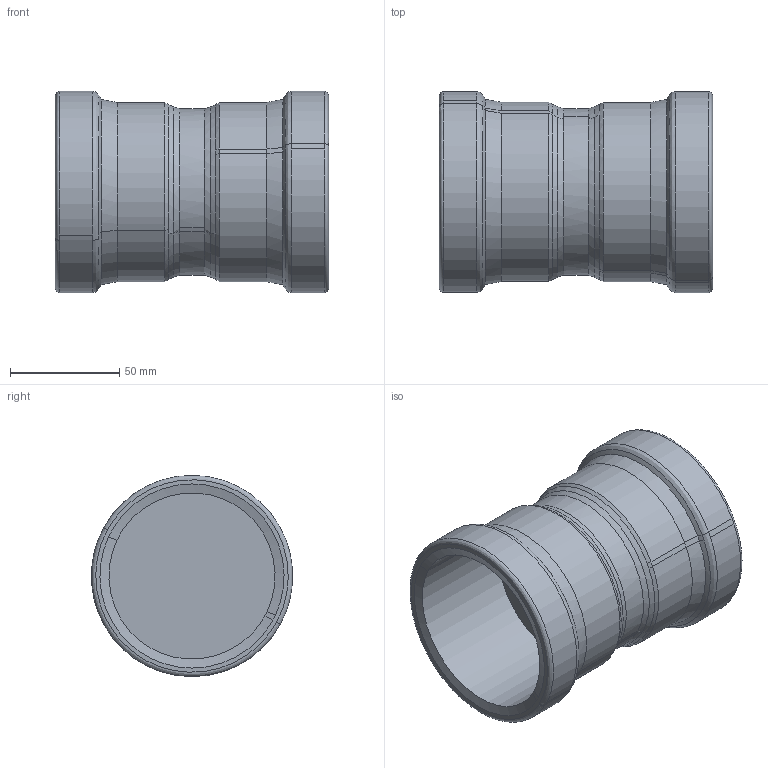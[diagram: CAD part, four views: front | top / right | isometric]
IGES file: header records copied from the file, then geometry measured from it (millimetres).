
Start section: 3D InterOp IGES (Version 25 0 1), Spatial Corp. Copyright (c) 1999-2007.
Global section: file name: pim0001880.igs; native system: Spatial Corp.; preprocessor: 3D InterOp ACIS/IGES; author: CAD-PIM; organization: TransMagic, Inc.; date: 20150318.101548; units: millimetre
Bounding box: 125 x 91.93 x 92 mm (x, y, z)
Volume: 248649.2 mm3; surface area: 70767 mm2
Topology: 1 solids, 1 shells, 65 faces, 150 edges, 85 vertices
Faces by surface type: bspline 65
